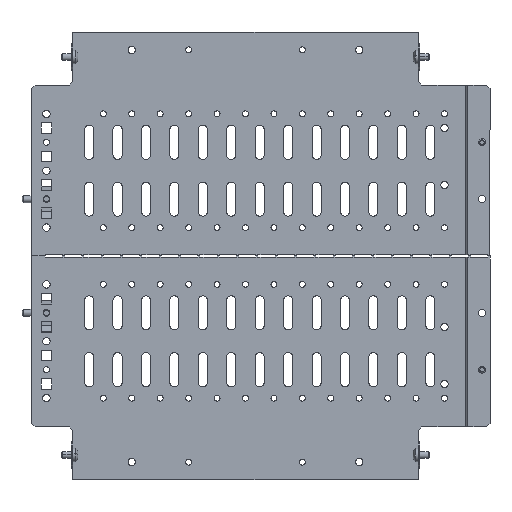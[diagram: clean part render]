
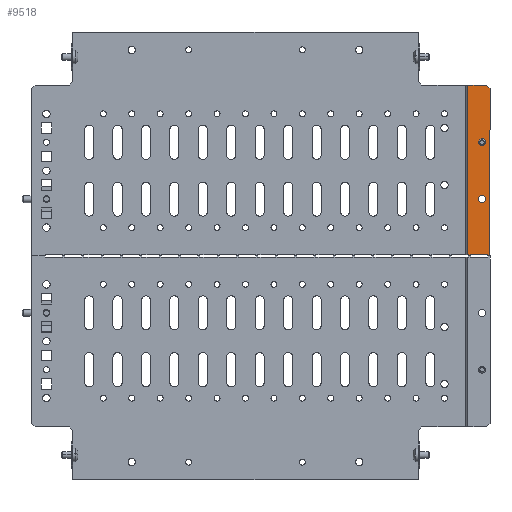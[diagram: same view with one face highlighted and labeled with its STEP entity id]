
A CAD part, top view. The second image highlights one B-rep face of the part: STEP entity #9518.
In plain terms, the highlighted planar face has unit normal (0, 0, 1).
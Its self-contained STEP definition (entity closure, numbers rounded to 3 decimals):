
#504 = CARTESIAN_POINT ( 'NONE',  ( 393.5, 1., 4.5 ) ) ;
#542 = CARTESIAN_POINT ( 'NONE',  ( 384.33, 150.25, 4.5 ) ) ;
#629 = DIRECTION ( 'NONE',  ( 0., 1., 0. ) ) ;
#872 = VECTOR ( 'NONE', #10029, 1000. ) ;
#1080 = DIRECTION ( 'NONE',  ( 1., 0., 0. ) ) ;
#1135 = VERTEX_POINT ( 'NONE', #542 ) ;
#1253 = VECTOR ( 'NONE', #27092, 1000. ) ;
#1391 = CARTESIAN_POINT ( 'NONE',  ( 392.75, 50., 4.5 ) ) ;
#1680 = VECTOR ( 'NONE', #17116, 1000. ) ;
#1853 = PLANE ( 'NONE',  #27695 ) ;
#1963 = VERTEX_POINT ( 'NONE', #10676 ) ;
#2420 = EDGE_CURVE ( 'NONE', #23615, #19699, #11782, .T. ) ;
#2949 = CARTESIAN_POINT ( 'NONE',  ( 396., 50., 4.5 ) ) ;
#3043 = VERTEX_POINT ( 'NONE', #19166 ) ;
#3118 = CARTESIAN_POINT ( 'NONE',  ( 400., 150.25, 4.5 ) ) ;
#3421 = EDGE_CURVE ( 'NONE', #8658, #20006, #5007, .T. ) ;
#3424 = LINE ( 'NONE', #29455, #1253 ) ;
#3652 = VERTEX_POINT ( 'NONE', #1391 ) ;
#3798 = EDGE_LOOP ( 'NONE', ( #6452, #12488 ) ) ;
#3862 = LINE ( 'NONE', #13410, #20544 ) ;
#3906 = CARTESIAN_POINT ( 'NONE',  ( 403., 0., 4.5 ) ) ;
#4236 = CARTESIAN_POINT ( 'NONE',  ( 396., 50., 4.5 ) ) ;
#4445 = VERTEX_POINT ( 'NONE', #27478 ) ;
#5007 = LINE ( 'NONE', #26334, #21871 ) ;
#5087 = EDGE_CURVE ( 'NONE', #30723, #3043, #17088, .T. ) ;
#5224 = EDGE_CURVE ( 'NONE', #20006, #1135, #10982, .T. ) ;
#5835 = VECTOR ( 'NONE', #30999, 1000. ) ;
#6452 = ORIENTED_EDGE ( 'NONE', *, *, #17658, .T. ) ;
#6513 = ORIENTED_EDGE ( 'NONE', *, *, #20014, .T. ) ;
#6634 = CARTESIAN_POINT ( 'NONE',  ( 396., 100., 4.5 ) ) ;
#7266 = ORIENTED_EDGE ( 'NONE', *, *, #2420, .T. ) ;
#7485 = DIRECTION ( 'NONE',  ( -0.707, 0.707, 0. ) ) ;
#7519 = EDGE_CURVE ( 'NONE', #9501, #4445, #3862, .T. ) ;
#7883 = ORIENTED_EDGE ( 'NONE', *, *, #8411, .F. ) ;
#8004 = EDGE_CURVE ( 'NONE', #22708, #3652, #18521, .T. ) ;
#8411 = EDGE_CURVE ( 'NONE', #17195, #3043, #20991, .T. ) ;
#8542 = VERTEX_POINT ( 'NONE', #12010 ) ;
#8574 = EDGE_LOOP ( 'NONE', ( #25198, #12114, #18436, #28426, #29382, #10108, #6513, #14903, #7883, #11425, #24517, #25819 ) ) ;
#8605 = DIRECTION ( 'NONE',  ( 0., 1., 0. ) ) ;
#8658 = VERTEX_POINT ( 'NONE', #30496 ) ;
#8896 = FACE_BOUND ( 'NONE', #3798, .T. ) ;
#9371 = EDGE_LOOP ( 'NONE', ( #18116, #7266 ) ) ;
#9501 = VERTEX_POINT ( 'NONE', #3906 ) ;
#9508 = VERTEX_POINT ( 'NONE', #27892 ) ;
#9518 = ADVANCED_FACE ( 'NONE', ( #25553, #11267, #8896 ), #1853, .T. ) ;
#9727 = CARTESIAN_POINT ( 'NONE',  ( 401., 0., 4.5 ) ) ;
#9745 = VECTOR ( 'NONE', #19833, 1000. ) ;
#9958 = EDGE_CURVE ( 'NONE', #1135, #13503, #27003, .T. ) ;
#10029 = DIRECTION ( 'NONE',  ( 0., -1., 0. ) ) ;
#10048 = CIRCLE ( 'NONE', #23100, 3.25 ) ;
#10108 = ORIENTED_EDGE ( 'NONE', *, *, #28795, .T. ) ;
#10580 = EDGE_CURVE ( 'NONE', #9501, #8658, #24950, .T. ) ;
#10676 = CARTESIAN_POINT ( 'NONE',  ( 401., 1., 4.5 ) ) ;
#10828 = CARTESIAN_POINT ( 'NONE',  ( 402.92, 150.25, 4.5 ) ) ;
#10982 = LINE ( 'NONE', #10828, #11872 ) ;
#11040 = CARTESIAN_POINT ( 'NONE',  ( 395.099, 97.138, 4.5 ) ) ;
#11267 = FACE_OUTER_BOUND ( 'NONE', #8574, .T. ) ;
#11344 = VECTOR ( 'NONE', #629, 1000. ) ;
#11425 = ORIENTED_EDGE ( 'NONE', *, *, #25610, .F. ) ;
#11782 = CIRCLE ( 'NONE', #15801, 3. ) ;
#11872 = VECTOR ( 'NONE', #15377, 1000. ) ;
#12010 = CARTESIAN_POINT ( 'NONE',  ( 386., 1., 4.5 ) ) ;
#12114 = ORIENTED_EDGE ( 'NONE', *, *, #10580, .T. ) ;
#12195 = DIRECTION ( 'NONE',  ( 0., 0., -1. ) ) ;
#12488 = ORIENTED_EDGE ( 'NONE', *, *, #8004, .T. ) ;
#13410 = CARTESIAN_POINT ( 'NONE',  ( -0.08, 0., 4.5 ) ) ;
#13451 = DIRECTION ( 'NONE',  ( 0., 0., -1. ) ) ;
#13503 = VERTEX_POINT ( 'NONE', #14714 ) ;
#14714 = CARTESIAN_POINT ( 'NONE',  ( 383.295, 150.25, 4.5 ) ) ;
#14903 = ORIENTED_EDGE ( 'NONE', *, *, #5087, .T. ) ;
#15377 = DIRECTION ( 'NONE',  ( -1., 0., 0. ) ) ;
#15656 = DIRECTION ( 'NONE',  ( 1., 0., 0. ) ) ;
#15801 = AXIS2_PLACEMENT_3D ( 'NONE', #6634, #21248, #23447 ) ;
#15955 = CARTESIAN_POINT ( 'NONE',  ( 399.25, 50., 4.5 ) ) ;
#16531 = AXIS2_PLACEMENT_3D ( 'NONE', #4236, #21323, #18505 ) ;
#16666 = LINE ( 'NONE', #26233, #27607 ) ;
#16830 = VECTOR ( 'NONE', #1080, 1000. ) ;
#17088 = LINE ( 'NONE', #19622, #872 ) ;
#17116 = DIRECTION ( 'NONE',  ( -1., 0., 0. ) ) ;
#17195 = VERTEX_POINT ( 'NONE', #24642 ) ;
#17658 = EDGE_CURVE ( 'NONE', #3652, #22708, #10048, .T. ) ;
#17714 = VECTOR ( 'NONE', #8605, 1000. ) ;
#17869 = CARTESIAN_POINT ( 'NONE',  ( 382.315, 1., 4.5 ) ) ;
#18116 = ORIENTED_EDGE ( 'NONE', *, *, #20114, .T. ) ;
#18436 = ORIENTED_EDGE ( 'NONE', *, *, #3421, .T. ) ;
#18505 = DIRECTION ( 'NONE',  ( -1., 0., 0. ) ) ;
#18521 = CIRCLE ( 'NONE', #16531, 3.25 ) ;
#18625 = DIRECTION ( 'NONE',  ( 0., 0., 1. ) ) ;
#18824 = CIRCLE ( 'NONE', #30369, 3. ) ;
#19166 = CARTESIAN_POINT ( 'NONE',  ( 383.997, 0., 4.5 ) ) ;
#19336 = CARTESIAN_POINT ( 'NONE',  ( 384.33, 150.25, 4.5 ) ) ;
#19592 = DIRECTION ( 'NONE',  ( -1., 0., 0. ) ) ;
#19622 = CARTESIAN_POINT ( 'NONE',  ( 383.997, 0., 4.5 ) ) ;
#19699 = VERTEX_POINT ( 'NONE', #11040 ) ;
#19833 = DIRECTION ( 'NONE',  ( -1., 0., 0. ) ) ;
#20006 = VERTEX_POINT ( 'NONE', #3118 ) ;
#20014 = EDGE_CURVE ( 'NONE', #9508, #30723, #26800, .T. ) ;
#20114 = EDGE_CURVE ( 'NONE', #19699, #23615, #18824, .T. ) ;
#20226 = CARTESIAN_POINT ( 'NONE',  ( 396.901, 102.862, 4.5 ) ) ;
#20239 = CARTESIAN_POINT ( 'NONE',  ( 403., -150.25, 4.5 ) ) ;
#20544 = VECTOR ( 'NONE', #30806, 1000. ) ;
#20991 = LINE ( 'NONE', #25847, #5835 ) ;
#21248 = DIRECTION ( 'NONE',  ( 0., 0., -1. ) ) ;
#21323 = DIRECTION ( 'NONE',  ( 0., 0., -1. ) ) ;
#21871 = VECTOR ( 'NONE', #7485, 1000. ) ;
#21998 = EDGE_CURVE ( 'NONE', #4445, #1963, #24334, .T. ) ;
#22172 = LINE ( 'NONE', #504, #9745 ) ;
#22708 = VERTEX_POINT ( 'NONE', #15955 ) ;
#23100 = AXIS2_PLACEMENT_3D ( 'NONE', #2949, #12195, #19592 ) ;
#23185 = CARTESIAN_POINT ( 'NONE',  ( 396., 100., 4.5 ) ) ;
#23447 = DIRECTION ( 'NONE',  ( 1., 0., 0. ) ) ;
#23615 = VERTEX_POINT ( 'NONE', #20226 ) ;
#24334 = LINE ( 'NONE', #9727, #11344 ) ;
#24517 = ORIENTED_EDGE ( 'NONE', *, *, #28968, .F. ) ;
#24642 = CARTESIAN_POINT ( 'NONE',  ( 386., 0., 4.5 ) ) ;
#24950 = LINE ( 'NONE', #20239, #17714 ) ;
#25198 = ORIENTED_EDGE ( 'NONE', *, *, #7519, .F. ) ;
#25553 = FACE_BOUND ( 'NONE', #9371, .T. ) ;
#25610 = EDGE_CURVE ( 'NONE', #8542, #17195, #16666, .T. ) ;
#25819 = ORIENTED_EDGE ( 'NONE', *, *, #21998, .F. ) ;
#25847 = CARTESIAN_POINT ( 'NONE',  ( -0.08, 0., 4.5 ) ) ;
#26233 = CARTESIAN_POINT ( 'NONE',  ( 386., 0., 4.5 ) ) ;
#26334 = CARTESIAN_POINT ( 'NONE',  ( 275.085, 275.165, 4.5 ) ) ;
#26536 = DIRECTION ( 'NONE',  ( 0., -1., 0. ) ) ;
#26800 = LINE ( 'NONE', #17869, #16830 ) ;
#27003 = LINE ( 'NONE', #19336, #1680 ) ;
#27092 = DIRECTION ( 'NONE',  ( 0., -1., 0. ) ) ;
#27478 = CARTESIAN_POINT ( 'NONE',  ( 401., 0., 4.5 ) ) ;
#27607 = VECTOR ( 'NONE', #26536, 1000. ) ;
#27695 = AXIS2_PLACEMENT_3D ( 'NONE', #30408, #18625, #28037 ) ;
#27892 = CARTESIAN_POINT ( 'NONE',  ( 383.295, 1., 4.5 ) ) ;
#28037 = DIRECTION ( 'NONE',  ( 1., 0., 0. ) ) ;
#28426 = ORIENTED_EDGE ( 'NONE', *, *, #5224, .T. ) ;
#28795 = EDGE_CURVE ( 'NONE', #13503, #9508, #3424, .T. ) ;
#28968 = EDGE_CURVE ( 'NONE', #1963, #8542, #22172, .T. ) ;
#29382 = ORIENTED_EDGE ( 'NONE', *, *, #9958, .T. ) ;
#29455 = CARTESIAN_POINT ( 'NONE',  ( 383.295, 0., 4.5 ) ) ;
#30369 = AXIS2_PLACEMENT_3D ( 'NONE', #23185, #13451, #15656 ) ;
#30408 = CARTESIAN_POINT ( 'NONE',  ( -0.08, 0., 4.5 ) ) ;
#30496 = CARTESIAN_POINT ( 'NONE',  ( 403., 147.25, 4.5 ) ) ;
#30723 = VERTEX_POINT ( 'NONE', #31040 ) ;
#30806 = DIRECTION ( 'NONE',  ( -1., 0., 0. ) ) ;
#30999 = DIRECTION ( 'NONE',  ( -1., 0., 0. ) ) ;
#31040 = CARTESIAN_POINT ( 'NONE',  ( 383.997, 1., 4.5 ) ) ;
